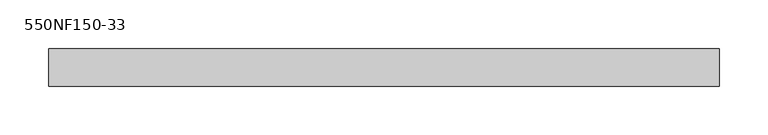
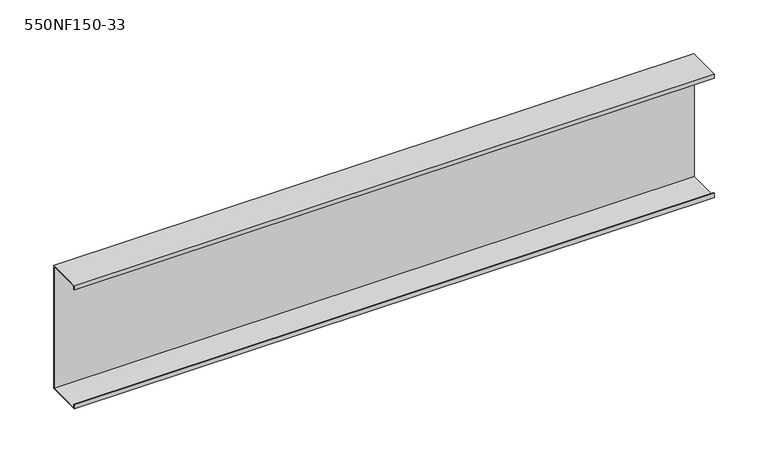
"""IFC4 building model written with IfcOpenShell, lengths in millimetres: beam geometry, BIMSF-SSMA-S : 550NF150-33."""

from ifc_helpers import new_model, si_unit, frame, origin, place, context, project, spatial, polyline, outline, extrude, source, transform, mapped, element, save


def beam_550nf150_33_879dc33d(model_context):
    return source(origin(), model_context, "Body", "SweptSolid", [
        extrude(outline(polyline([(19.05, 69.85), (19.05, -69.85), (-19.05, -69.85), (-19.05, -65.0748), (-18.1676842, -65.0748), (-18.1676842, -68.9676842), (18.1676842, -68.9676842), (18.1676842, 68.9676842), (-18.1676842, 68.9676842), (-18.1676842, 65.0748), (-19.05, 65.0748), (-19.05, 69.85), (19.05, 69.85)])), frame((-342.9, 0.0, 0.0), z_axis=(1.0, 0.0, 0.0), x_axis=(0.0, 1.0, 0.0)), (0.0, 0.0, 1.0), 685.8),
    ])


if __name__ == "__main__":
    model = new_model("IFC4")
    model_context = context("Model", 3, world=origin())
    ifc_project = project(units=[si_unit("LENGTHUNIT", "METRE", prefix="MILLI")], contexts=[model_context])
    site = spatial("IfcSite", under=ifc_project)
    building = spatial("IfcBuilding", under=site)
    placement = place(None, origin())
    beam_550nf150_33_shape = beam_550nf150_33_879dc33d(model_context)
    element("IfcBeam", 1, ObjectType="BIMSF-SSMA-S : 550NF150-33", at=placement, inside=building, context=model_context, shape_type="MappedRepresentation", body=[
        mapped(beam_550nf150_33_shape, transform((0.0, 0.0, 0.0), x_axis=(1.0, 0.0, 0.0), y_axis=(0.0, 1.0, 0.0), z_axis=(0.0, 0.0, 1.0))),
    ])
    save(model, "model.ifc")
